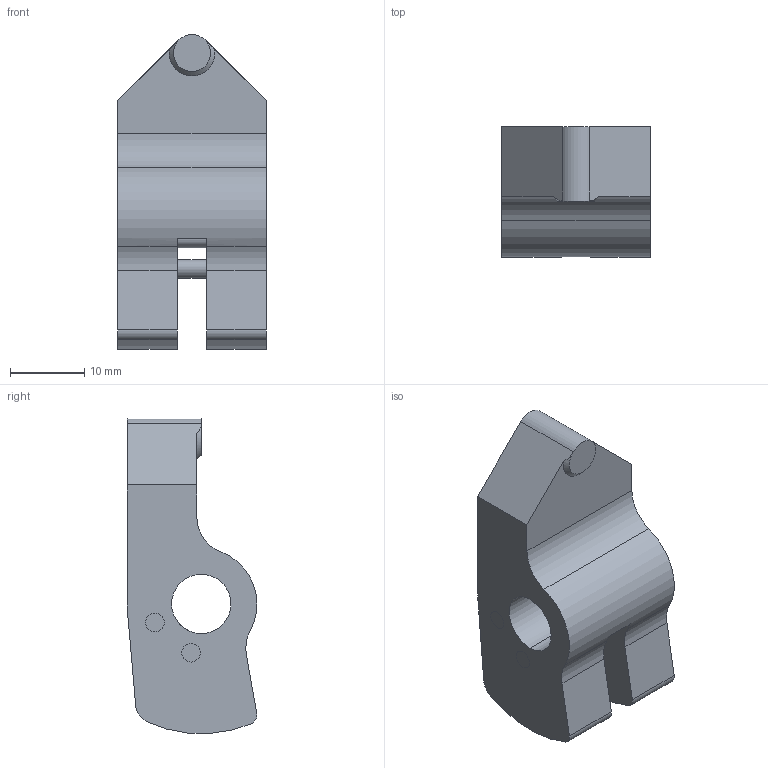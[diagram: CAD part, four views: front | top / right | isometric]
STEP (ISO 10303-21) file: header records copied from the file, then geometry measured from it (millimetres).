
FILE_DESCRIPTION (( 'STEP AP203' ), '1' );
FILE_NAME ('101310_Spannhebel.STEP', '2013-04-19T08:28:49', ( '' ), ( '' ), 'SwSTEP 2.0', 'SolidWorks 2010', '' );
FILE_SCHEMA (( 'CONFIG_CONTROL_DESIGN' ));
Length unit declared in the file: millimetre
Products named in the file (3): 101310_Spannhebel; 101310_Spannhebel_Default; 101310_Stift
Assembly tree (3 placements, depth 2):
  101310_Spannhebel
    101310_Stift  x2
    101310_Spannhebel_Default
Bounding box: 20 x 17.5 x 42.46 mm (x, y, z)
Volume: 8555.7 mm3; surface area: 4319.6 mm2
Topology: 3 solids, 3 shells, 44 faces, 124 edges, 82 vertices
Faces by surface type: cylinder 24, plane 19, cone 1
Entity records: 1731 total; most frequent: DIRECTION 264, CARTESIAN_POINT 254, ORIENTED_EDGE 236, EDGE_CURVE 118, AXIS2_PLACEMENT_3D 102, VERTEX_POINT 78, LINE 60, VECTOR 60
